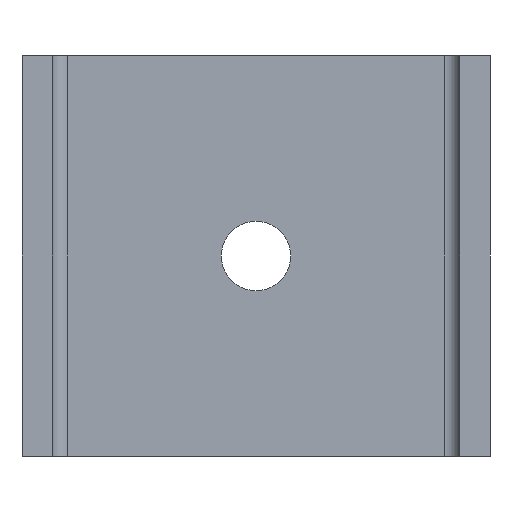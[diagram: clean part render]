
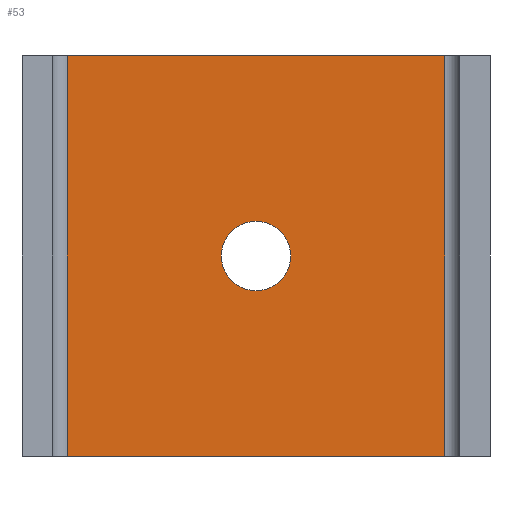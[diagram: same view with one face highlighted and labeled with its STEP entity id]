
A CAD part, front view. The second image highlights one B-rep face of the part: STEP entity #53.
In plain terms, the highlighted planar face has unit normal (0, -1, 0).
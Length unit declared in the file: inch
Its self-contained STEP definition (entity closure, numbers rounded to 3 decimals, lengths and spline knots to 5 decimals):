
#53=ADVANCED_FACE('',(#113,#114),#115,.T.);
#113=FACE_BOUND('',#184,.T.);
#114=FACE_OUTER_BOUND('',#185,.T.);
#115=PLANE('',#186);
#184=EDGE_LOOP('',(#316,#317,#318,#319));
#185=EDGE_LOOP('',(#320,#321,#322,#323));
#186=AXIS2_PLACEMENT_3D('',#324,#325,#326);
#316=ORIENTED_EDGE('',*,*,#448,.T.);
#317=ORIENTED_EDGE('',*,*,#449,.T.);
#318=ORIENTED_EDGE('',*,*,#450,.T.);
#319=ORIENTED_EDGE('',*,*,#451,.T.);
#320=ORIENTED_EDGE('',*,*,#452,.T.);
#321=ORIENTED_EDGE('',*,*,#432,.F.);
#322=ORIENTED_EDGE('',*,*,#453,.F.);
#323=ORIENTED_EDGE('',*,*,#454,.T.);
#324=CARTESIAN_POINT('',(0.88923,0.34935,0.0));
#325=DIRECTION('',(0.0,-1.0,0.0));
#326=DIRECTION('',(1.0,0.0,-0.0));
#432=EDGE_CURVE('',#507,#502,#509,.T.);
#448=EDGE_CURVE('',#537,#538,#539,.T.);
#449=EDGE_CURVE('',#538,#540,#541,.T.);
#450=EDGE_CURVE('',#540,#542,#543,.T.);
#451=EDGE_CURVE('',#542,#537,#544,.T.);
#452=EDGE_CURVE('',#545,#502,#546,.T.);
#453=EDGE_CURVE('',#547,#507,#548,.T.);
#454=EDGE_CURVE('',#547,#545,#549,.T.);
#502=VERTEX_POINT('',#608);
#507=VERTEX_POINT('',#617);
#509=LINE('',#622,#623);
#537=VERTEX_POINT('',#671);
#538=VERTEX_POINT('',#672);
#539=B_SPLINE_CURVE_WITH_KNOTS('',3,(#673,#674,#675,#676),.UNSPECIFIED.,.F.,.F.,(4,4),(0.0,1.0),.UNSPECIFIED.);
#540=VERTEX_POINT('',#677);
#541=B_SPLINE_CURVE_WITH_KNOTS('',3,(#678,#679,#680,#681),.UNSPECIFIED.,.F.,.F.,(4,4),(0.0,1.0),.UNSPECIFIED.);
#542=VERTEX_POINT('',#682);
#543=B_SPLINE_CURVE_WITH_KNOTS('',3,(#683,#684,#685,#686),.UNSPECIFIED.,.F.,.F.,(4,4),(0.0,1.0),.UNSPECIFIED.);
#544=B_SPLINE_CURVE_WITH_KNOTS('',3,(#687,#688,#689,#690),.UNSPECIFIED.,.F.,.F.,(4,4),(0.0,1.0),.UNSPECIFIED.);
#545=VERTEX_POINT('',#691);
#546=LINE('',#692,#693);
#547=VERTEX_POINT('',#694);
#548=LINE('',#695,#696);
#549=LINE('',#697,#698);
#608=CARTESIAN_POINT('',(0.12231,0.34935,1.625));
#617=CARTESIAN_POINT('',(0.12231,0.34935,0.0));
#622=CARTESIAN_POINT('',(0.12231,0.34935,0.0));
#623=VECTOR('',#772,1.0);
#671=CARTESIAN_POINT('',(0.74861,0.34935,0.8125));
#672=CARTESIAN_POINT('',(0.88923,0.34935,0.95313));
#673=CARTESIAN_POINT('',(0.74861,0.34935,0.8125));
#674=CARTESIAN_POINT('',(0.74861,0.34935,0.89016));
#675=CARTESIAN_POINT('',(0.81157,0.34935,0.95313));
#676=CARTESIAN_POINT('',(0.88923,0.34935,0.95313));
#677=CARTESIAN_POINT('',(1.02986,0.34935,0.8125));
#678=CARTESIAN_POINT('',(0.88923,0.34935,0.95313));
#679=CARTESIAN_POINT('',(0.9669,0.34935,0.95313));
#680=CARTESIAN_POINT('',(1.02986,0.34935,0.89016));
#681=CARTESIAN_POINT('',(1.02986,0.34935,0.8125));
#682=CARTESIAN_POINT('',(0.88923,0.34935,0.67187));
#683=CARTESIAN_POINT('',(1.02986,0.34935,0.8125));
#684=CARTESIAN_POINT('',(1.02986,0.34935,0.73484));
#685=CARTESIAN_POINT('',(0.9669,0.34935,0.67187));
#686=CARTESIAN_POINT('',(0.88923,0.34935,0.67187));
#687=CARTESIAN_POINT('',(0.88923,0.34935,0.67187));
#688=CARTESIAN_POINT('',(0.81157,0.34935,0.67187));
#689=CARTESIAN_POINT('',(0.74861,0.34935,0.73484));
#690=CARTESIAN_POINT('',(0.74861,0.34935,0.8125));
#691=CARTESIAN_POINT('',(1.65615,0.34935,1.625));
#692=CARTESIAN_POINT('',(1.65615,0.34935,1.625));
#693=VECTOR('',#781,1.0);
#694=CARTESIAN_POINT('',(1.65615,0.34935,0.0));
#695=CARTESIAN_POINT('',(1.65615,0.34935,0.0));
#696=VECTOR('',#782,1.0);
#697=CARTESIAN_POINT('',(1.65615,0.34935,0.0));
#698=VECTOR('',#783,1.0);
#772=DIRECTION('',(0.0,0.0,1.0));
#781=DIRECTION('',(-1.0,0.0,0.0));
#782=DIRECTION('',(-1.0,0.0,0.0));
#783=DIRECTION('',(0.0,0.0,1.0));
